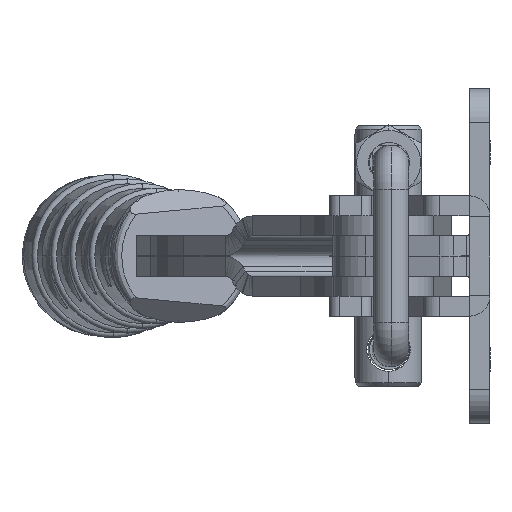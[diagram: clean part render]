
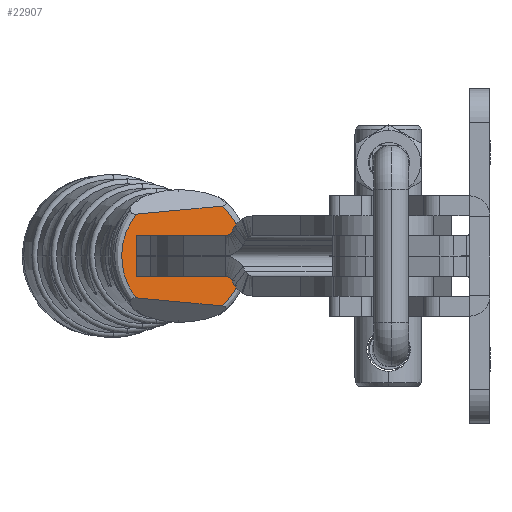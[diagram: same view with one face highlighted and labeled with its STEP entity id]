
A CAD part, left-side view. The second image highlights one B-rep face of the part: STEP entity #22907.
In plain terms, the highlighted planar face has unit normal (-0.97, -0.244, 0) as drawn and (0.996, -0.09, 0) by its records, which use the part's own axes.
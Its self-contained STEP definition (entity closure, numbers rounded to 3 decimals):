
#126 = VERTEX_POINT ( 'NONE', #1914 ) ;
#179 = VECTOR ( 'NONE', #27095, 1000. ) ;
#560 =( BOUNDED_CURVE ( )  B_SPLINE_CURVE ( 3, ( #21018, #24244, #3412, #31965 ),
 .UNSPECIFIED., .F., .T. ) 
 B_SPLINE_CURVE_WITH_KNOTS ( ( 4, 4 ),
 ( 2.289, 3.994 ),
 .UNSPECIFIED. ) 
 CURVE ( )  GEOMETRIC_REPRESENTATION_ITEM ( )  RATIONAL_B_SPLINE_CURVE ( ( 1., 0.772, 0.772, 1. ) ) 
 REPRESENTATION_ITEM ( '' )  );
#745 = FACE_BOUND ( 'NONE', #4069, .T. ) ;
#1914 = CARTESIAN_POINT ( 'NONE',  ( -1.467, -6.122, -7.467 ) ) ;
#2578 = DIRECTION ( 'NONE',  ( -0.09, -0.996, 0. ) ) ;
#3077 = PLANE ( 'NONE',  #31323 ) ;
#3412 = CARTESIAN_POINT ( 'NONE',  ( -1.908, -10.984, -3.224 ) ) ;
#4069 = EDGE_LOOP ( 'NONE', ( #25942, #21374, #23349, #6705 ) ) ;
#4148 = CARTESIAN_POINT ( 'NONE',  ( -1.546, -7., 3. ) ) ;
#5089 = LINE ( 'NONE', #15452, #29474 ) ;
#5131 = CARTESIAN_POINT ( 'NONE',  ( -0.277, 7., 3. ) ) ;
#6372 = EDGE_CURVE ( 'NONE', #20295, #20490, #6768, .T. ) ;
#6705 = ORIENTED_EDGE ( 'NONE', *, *, #16089, .T. ) ;
#6768 = LINE ( 'NONE', #11852, #179 ) ;
#6860 = EDGE_CURVE ( 'NONE', #10711, #16388, #30346, .T. ) ;
#8402 = CARTESIAN_POINT ( 'NONE',  ( -1.546, -7., -3. ) ) ;
#8651 = ORIENTED_EDGE ( 'NONE', *, *, #6860, .T. ) ;
#9190 = DIRECTION ( 'NONE',  ( 0.09, 0.992, -0.09 ) ) ;
#9411 = LINE ( 'NONE', #24847, #9518 ) ;
#9518 = VECTOR ( 'NONE', #19761, 1000. ) ;
#9814 = CARTESIAN_POINT ( 'NONE',  ( -0.271, 7.066, 6.271 ) ) ;
#10123 = CARTESIAN_POINT ( 'NONE',  ( -0.277, 7., -3. ) ) ;
#10202 = EDGE_CURVE ( 'NONE', #30680, #20295, #9411, .T. ) ;
#10395 = CARTESIAN_POINT ( 'NONE',  ( -0.271, 7.066, -6.271 ) ) ;
#10711 = VERTEX_POINT ( 'NONE', #11671 ) ;
#10839 = CARTESIAN_POINT ( 'NONE',  ( -1.467, -6.122, 7.467 ) ) ;
#11647 = CARTESIAN_POINT ( 'NONE',  ( -1.546, -7., -3. ) ) ;
#11671 = CARTESIAN_POINT ( 'NONE',  ( -0.271, 7.066, -6.271 ) ) ;
#11852 = CARTESIAN_POINT ( 'NONE',  ( -0.277, 7., -3. ) ) ;
#12431 = EDGE_LOOP ( 'NONE', ( #14110, #31986, #25406, #8651 ) ) ;
#13296 = CARTESIAN_POINT ( 'NONE',  ( 0.015, 10.21, 2.466 ) ) ;
#13353 = DIRECTION ( 'NONE',  ( 0., 0., 1. ) ) ;
#13414 = CARTESIAN_POINT ( 'NONE',  ( 0., 10.05, 128.031 ) ) ;
#14110 = ORIENTED_EDGE ( 'NONE', *, *, #27160, .F. ) ;
#15452 = CARTESIAN_POINT ( 'NONE',  ( -0.927, -0.172, -3. ) ) ;
#16003 = CARTESIAN_POINT ( 'NONE',  ( 0.015, 10.21, -2.466 ) ) ;
#16062 = LINE ( 'NONE', #8402, #30165 ) ;
#16089 = EDGE_CURVE ( 'NONE', #20490, #32410, #5089, .T. ) ;
#16122 = DIRECTION ( 'NONE',  ( 0.09, 0.996, 0. ) ) ;
#16388 = VERTEX_POINT ( 'NONE', #9814 ) ;
#16968 = CARTESIAN_POINT ( 'NONE',  ( 9.722, 117.24, 3.722 ) ) ;
#17145 = VERTEX_POINT ( 'NONE', #10839 ) ;
#19761 = DIRECTION ( 'NONE',  ( 0.09, 0.996, 0. ) ) ;
#20295 = VERTEX_POINT ( 'NONE', #5131 ) ;
#20490 = VERTEX_POINT ( 'NONE', #10123 ) ;
#21018 = CARTESIAN_POINT ( 'NONE',  ( -1.467, -6.122, 7.467 ) ) ;
#21374 = ORIENTED_EDGE ( 'NONE', *, *, #10202, .T. ) ;
#22907 = ADVANCED_FACE ( 'NONE', ( #23929, #745 ), #3077, .T. ) ;
#23349 = ORIENTED_EDGE ( 'NONE', *, *, #6372, .T. ) ;
#23468 = CARTESIAN_POINT ( 'NONE',  ( -0.271, 7.066, 6.271 ) ) ;
#23929 = FACE_OUTER_BOUND ( 'NONE', #12431, .T. ) ;
#24244 = CARTESIAN_POINT ( 'NONE',  ( -1.908, -10.984, 3.224 ) ) ;
#24288 = LINE ( 'NONE', #27317, #32977 ) ;
#24750 = EDGE_CURVE ( 'NONE', #32410, #30680, #16062, .T. ) ;
#24847 = CARTESIAN_POINT ( 'NONE',  ( -0.927, -0.172, 3. ) ) ;
#25318 = EDGE_CURVE ( 'NONE', #17145, #126, #560, .T. ) ;
#25406 = ORIENTED_EDGE ( 'NONE', *, *, #27746, .F. ) ;
#25939 = VECTOR ( 'NONE', #29782, 1000. ) ;
#25942 = ORIENTED_EDGE ( 'NONE', *, *, #24750, .T. ) ;
#27095 = DIRECTION ( 'NONE',  ( 0., 0., -1. ) ) ;
#27160 = EDGE_CURVE ( 'NONE', #17145, #16388, #24288, .T. ) ;
#27317 = CARTESIAN_POINT ( 'NONE',  ( 9.859, 118.743, -3.859 ) ) ;
#27746 = EDGE_CURVE ( 'NONE', #10711, #126, #32304, .T. ) ;
#29107 = DIRECTION ( 'NONE',  ( 0.996, -0.09, 0. ) ) ;
#29474 = VECTOR ( 'NONE', #2578, 1000. ) ;
#29782 = DIRECTION ( 'NONE',  ( -0.09, -0.992, -0.09 ) ) ;
#30165 = VECTOR ( 'NONE', #13353, 1000. ) ;
#30346 =( BOUNDED_CURVE ( )  B_SPLINE_CURVE ( 3, ( #10395, #16003, #13296, #23468 ),
 .UNSPECIFIED., .F., .F. ) 
 B_SPLINE_CURVE_WITH_KNOTS ( ( 4, 4 ),
 ( 2.451, 3.832 ),
 .UNSPECIFIED. ) 
 CURVE ( )  GEOMETRIC_REPRESENTATION_ITEM ( )  RATIONAL_B_SPLINE_CURVE ( ( 1., 0.847, 0.847, 1. ) ) 
 REPRESENTATION_ITEM ( '' )  );
#30680 = VERTEX_POINT ( 'NONE', #4148 ) ;
#31323 = AXIS2_PLACEMENT_3D ( 'NONE', #13414, #29107, #16122 ) ;
#31965 = CARTESIAN_POINT ( 'NONE',  ( -1.467, -6.122, -7.467 ) ) ;
#31986 = ORIENTED_EDGE ( 'NONE', *, *, #25318, .T. ) ;
#32304 = LINE ( 'NONE', #16968, #25939 ) ;
#32410 = VERTEX_POINT ( 'NONE', #11647 ) ;
#32977 = VECTOR ( 'NONE', #9190, 1000. ) ;
